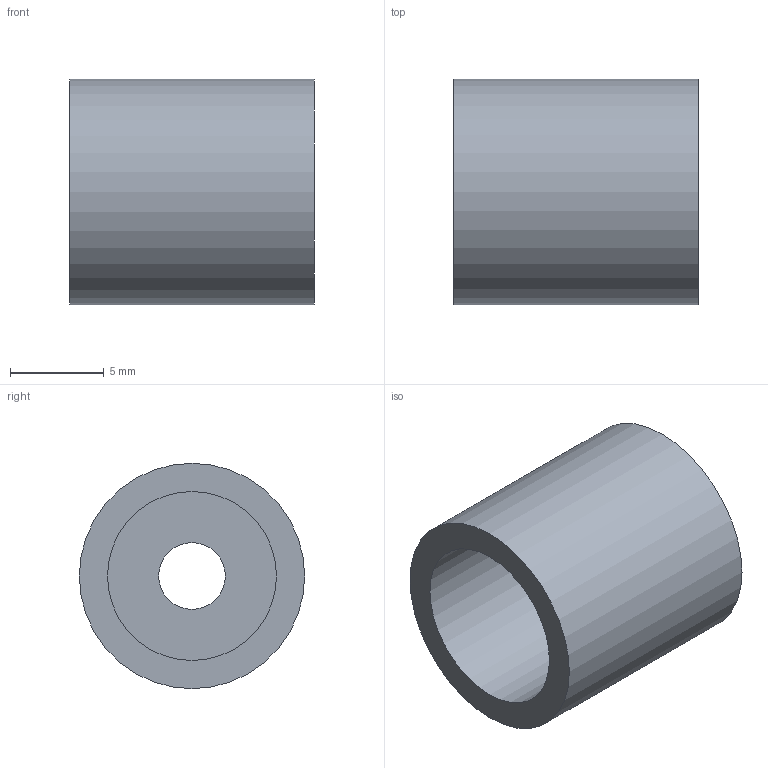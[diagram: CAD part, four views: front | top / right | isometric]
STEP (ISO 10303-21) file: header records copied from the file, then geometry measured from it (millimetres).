
FILE_DESCRIPTION(('Open CASCADE Model'),'2;1');
FILE_NAME('Open CASCADE Shape Model','2026-10-24T14:13:33',('Author'),( 'Open CASCADE'),'Open CASCADE STEP processor 7.9','Open CASCADE 7.9' ,'Unknown');
FILE_SCHEMA(('AUTOMOTIVE_DESIGN { 1 0 10303 214 1 1 1 1 }'));
Length unit declared in the file: millimetre
Products named in the file (1): Open CASCADE STEP translator 7.9 7
Bounding box: 13 x 12 x 12 mm (x, y, z)
Volume: 831.3 mm3; surface area: 1004.1 mm2
Topology: 1 solids, 1 shells, 6 faces, 9 edges, 6 vertices
Faces by surface type: plane 3, cylinder 3
Full cylindrical faces by diameter (mm): 3.55 x1, 9 x1, 12 x1
Entity records: 270 total; most frequent: DIRECTION 47, CARTESIAN_POINT 40, ORIENTED_EDGE 18, PCURVE 18, DEFINITIONAL_REPRESENTATION 18, LINE 15, VECTOR 15, AXIS2_PLACEMENT_3D 13
